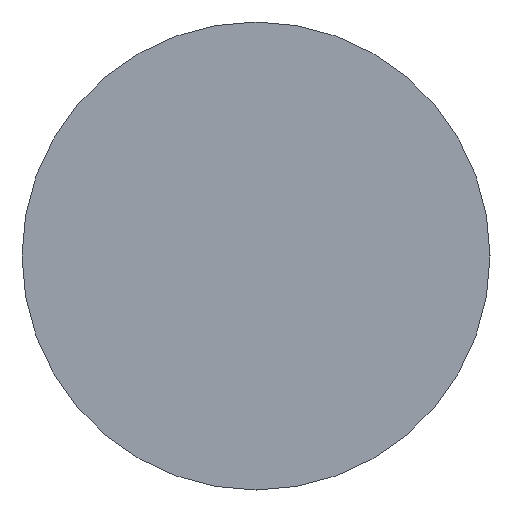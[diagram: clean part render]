
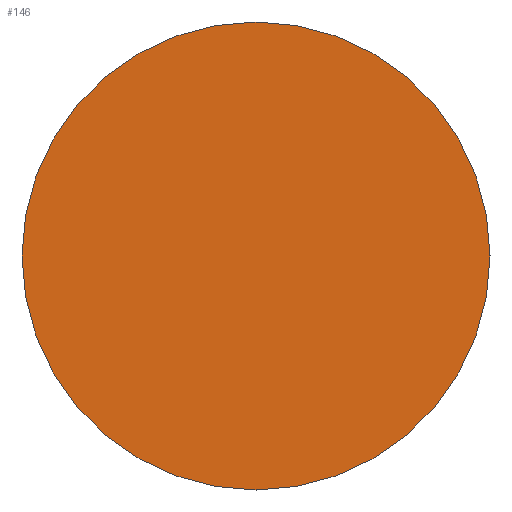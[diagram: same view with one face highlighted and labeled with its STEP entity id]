
A CAD part, front view. The second image highlights one B-rep face of the part: STEP entity #146.
In plain terms, the highlighted planar face has unit normal (0, -1, 0).
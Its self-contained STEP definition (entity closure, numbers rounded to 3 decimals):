
#7 = CARTESIAN_POINT ( 'NONE',  ( 0., 3.661, -22.9 ) ) ;
#28 = CIRCLE ( 'NONE', #180, 22.9 ) ;
#30 = DIRECTION ( 'NONE',  ( 0., 0., -1. ) ) ;
#33 = VERTEX_POINT ( 'NONE', #7 ) ;
#36 = VERTEX_POINT ( 'NONE', #79 ) ;
#45 = DIRECTION ( 'NONE',  ( 0., -1., 0. ) ) ;
#68 = EDGE_CURVE ( 'NONE', #36, #33, #167, .T. ) ;
#71 = PLANE ( 'NONE',  #139 ) ;
#79 = CARTESIAN_POINT ( 'NONE',  ( 0., 3.661, 22.9 ) ) ;
#87 = ORIENTED_EDGE ( 'NONE', *, *, #68, .F. ) ;
#90 = CARTESIAN_POINT ( 'NONE',  ( 0., 3.661, 0. ) ) ;
#123 = CARTESIAN_POINT ( 'NONE',  ( 0., 3.661, 0. ) ) ;
#135 = DIRECTION ( 'NONE',  ( 0., 0., 1. ) ) ;
#139 = AXIS2_PLACEMENT_3D ( 'NONE', #90, #45, #30 ) ;
#141 = DIRECTION ( 'NONE',  ( 0., 1., 0. ) ) ;
#145 = EDGE_LOOP ( 'NONE', ( #87, #149 ) ) ;
#146 = ADVANCED_FACE ( 'NONE', ( #233 ), #71, .T. ) ;
#149 = ORIENTED_EDGE ( 'NONE', *, *, #225, .F. ) ;
#157 = AXIS2_PLACEMENT_3D ( 'NONE', #158, #141, #232 ) ;
#158 = CARTESIAN_POINT ( 'NONE',  ( 0., 3.661, 0. ) ) ;
#167 = CIRCLE ( 'NONE', #157, 22.9 ) ;
#180 = AXIS2_PLACEMENT_3D ( 'NONE', #123, #228, #135 ) ;
#225 = EDGE_CURVE ( 'NONE', #33, #36, #28, .T. ) ;
#228 = DIRECTION ( 'NONE',  ( 0., 1., 0. ) ) ;
#232 = DIRECTION ( 'NONE',  ( 0., 0., 1. ) ) ;
#233 = FACE_OUTER_BOUND ( 'NONE', #145, .T. ) ;
